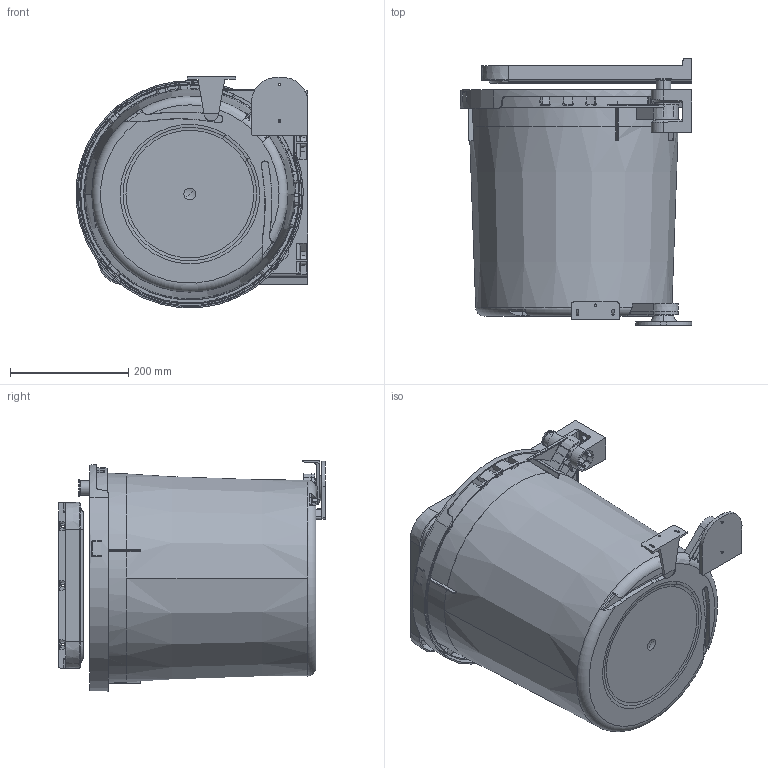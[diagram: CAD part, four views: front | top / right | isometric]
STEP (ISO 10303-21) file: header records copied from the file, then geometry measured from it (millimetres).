
FILE_DESCRIPTION((''),'2;1');
FILE_NAME('1002940','2024-07-18T06:15:53',('pbe'),(''),'CREO PARAMETRIC BY PTC INC, 2021184','CREO PARAMETRIC BY PTC INC, 2021184','');
FILE_SCHEMA(('AUTOMOTIVE_DESIGN { 1 0 10303 214 1 1 1 1 }'));
Length unit declared in the file: millimetre
Products named in the file (1): 1002940
Bounding box: 391.55 x 451.5 x 391.05 mm (x, y, z)
Volume: 2111009.1 mm3; surface area: 1675498.9 mm2
Topology: 3 solids, 3 shells, 1062 faces, 3120 edges, 2061 vertices
Faces by surface type: plane 492, cone 220, cylinder 206, torus 77, bspline 44, sphere 21, extrusion 2
Entity records: 45217 total; most frequent: CARTESIAN_POINT 17874, ORIENTED_EDGE 6202, DIRECTION 5141, EDGE_CURVE 3101, VERTEX_POINT 2061, AXIS2_PLACEMENT_3D 1994, VECTOR 1150, LINE 1148
